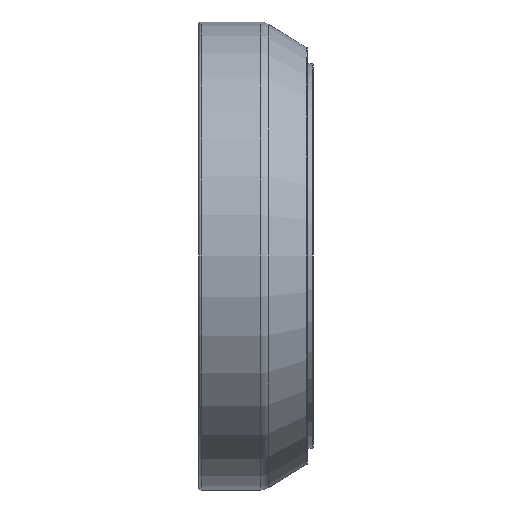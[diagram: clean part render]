
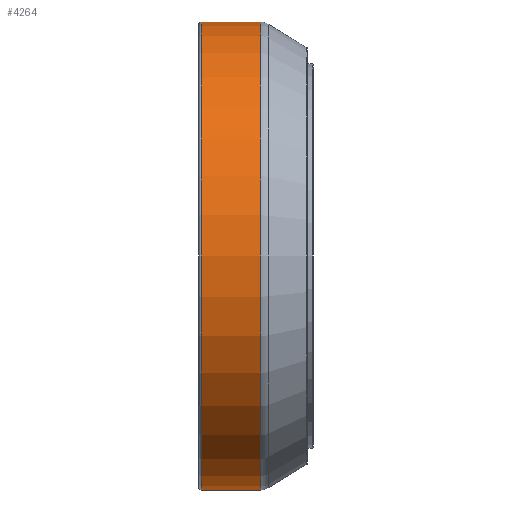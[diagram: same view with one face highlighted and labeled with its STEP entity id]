
A CAD part, left-side view. The second image highlights one B-rep face of the part: STEP entity #4264.
In plain terms, the highlighted cylindrical face has radius 332 mm (diameter 664 mm), a partial arc.
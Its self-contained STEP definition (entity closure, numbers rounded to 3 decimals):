
#4200=CARTESIAN_POINT('Vertex',(0.,602.,-332.)) ;
#4203=CARTESIAN_POINT('Axis2P3D Location',(0.,602.,0.)) ;
#4207=CARTESIAN_POINT('Vertex',(0.,602.,332.)) ;
#4234=CARTESIAN_POINT('Axis2P3D Location',(0.,524.,0.)) ;
#4239=CARTESIAN_POINT('Line Origine',(0.,559.63,-332.)) ;
#4243=CARTESIAN_POINT('Vertex',(0.,517.259,-332.)) ;
#4246=CARTESIAN_POINT('Axis2P3D Location',(0.,517.259,0.)) ;
#4250=CARTESIAN_POINT('Vertex',(0.,517.259,332.)) ;
#4253=CARTESIAN_POINT('Line Origine',(0.,559.63,332.)) ;
#4204=DIRECTION('Axis2P3D Direction',(0.,1.,0.)) ;
#4235=DIRECTION('Axis2P3D Direction',(0.,1.,0.)) ;
#4236=DIRECTION('Axis2P3D XDirection',(0.,0.,1.)) ;
#4240=DIRECTION('Vector Direction',(0.,1.,0.)) ;
#4247=DIRECTION('Axis2P3D Direction',(0.,1.,0.)) ;
#4254=DIRECTION('Vector Direction',(0.,1.,0.)) ;
#4205=AXIS2_PLACEMENT_3D('Circle Axis2P3D',#4203,#4204,$) ;
#4237=AXIS2_PLACEMENT_3D('Cylinder Axis2P3D',#4234,#4235,#4236) ;
#4248=AXIS2_PLACEMENT_3D('Circle Axis2P3D',#4246,#4247,$) ;
#4259=ORIENTED_EDGE('',*,*,#4209,.F.) ;
#4260=ORIENTED_EDGE('',*,*,#4245,.T.) ;
#4261=ORIENTED_EDGE('',*,*,#4252,.T.) ;
#4262=ORIENTED_EDGE('',*,*,#4257,.F.) ;
#4241=VECTOR('Line Direction',#4240,1.) ;
#4255=VECTOR('Line Direction',#4254,1.) ;
#4264=ADVANCED_FACE('Corps de pi\X2\00E8\X0\ce.2',(#4263),#4238,.T.) ;
#4206=CIRCLE('generated circle',#4205,332.) ;
#4249=CIRCLE('generated circle',#4248,332.) ;
#4238=CYLINDRICAL_SURFACE('generated cylinder',#4237,332.) ;
#4209=EDGE_CURVE('',#4201,#4208,#4206,.T.) ;
#4245=EDGE_CURVE('',#4201,#4244,#4242,.F.) ;
#4252=EDGE_CURVE('',#4244,#4251,#4249,.T.) ;
#4257=EDGE_CURVE('',#4208,#4251,#4256,.F.) ;
#4258=EDGE_LOOP('',(#4259,#4260,#4261,#4262)) ;
#4263=FACE_OUTER_BOUND('',#4258,.T.) ;
#4242=LINE('Line',#4239,#4241) ;
#4256=LINE('Line',#4253,#4255) ;
#4201=VERTEX_POINT('',#4200) ;
#4208=VERTEX_POINT('',#4207) ;
#4244=VERTEX_POINT('',#4243) ;
#4251=VERTEX_POINT('',#4250) ;
